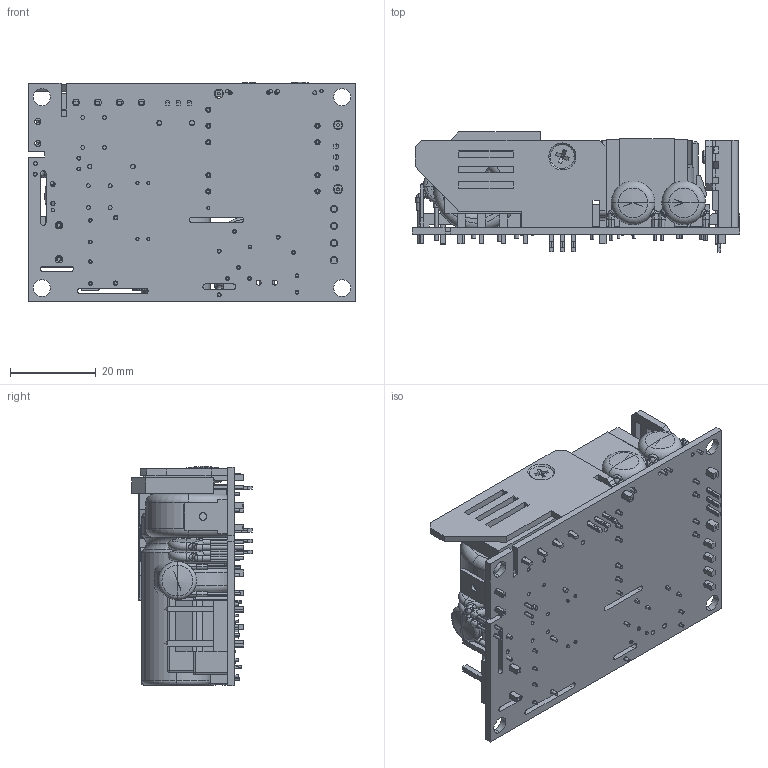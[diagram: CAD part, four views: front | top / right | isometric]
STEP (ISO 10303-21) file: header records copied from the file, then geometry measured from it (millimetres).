
FILE_DESCRIPTION (( 'STEP AP214' ), '1' );
FILE_NAME ('ECS60US12.STEP', '2011-06-01T17:39:45', ( 'ALL' ), ( 'XP ForeSight' ), 'SwSTEP 2.0', 'SolidWorks 2009', '' );
FILE_SCHEMA (( 'AUTOMOTIVE_DESIGN' ));
Length unit declared in the file: millimetre
Products named in the file (27): Capacitor Disc_0.400 D X .40 LS; CAP-ELE_5X11MM_HOZ; Nut_Keps_4-40_Star_01; TO220_3P_01; CON MLX  .156 3P; Fuse Mini Box; Conn_MLX_KK156_Hdr_04P; Capacitor Disc_0.300 D X .40 LS; Therm_.350 D X .250 LS; Faston .25 X .032; Xxmr_1050x1150x800_12p_mod; CAPACITOR FILM_.70x.30_.60LS; Pot_Top adj_Type1_01; Bridge Rectifier_GBU6K_Lead trimed; Bumper 10x10x4mm; Inductor Toroid_18.0mm OD_7mm Width; 10010914A0; Screw_FHP_M3.0x0.5_8mm (.315) LG; 10010743A0; ECS60US12; Capacitor Elec_10mm D_20mm; Inductor Toroid_8.0mm OD_3.5mm Width; 10011825A0; Capacitor Elec_16mm D_H1_40mm; Inductor Toroid_20.0mm OD_10mm Width; Capacitor Elec_8mm D_20mm; Capacitor Film_13x06mm_10 LS_12mm H
Assembly tree (36 placements, depth 2):
  ECS60US12
    Bumper 10x10x4mm  x2
    Capacitor Disc_0.300 D X .40 LS  x3
    Inductor Toroid_8.0mm OD_3.5mm Width
    TO220_3P_01  x2
    Bridge Rectifier_GBU6K_Lead trimed
    Capacitor Film_13x06mm_10 LS_12mm H
    Capacitor Elec_10mm D_20mm  x2
    CAP-ELE_5X11MM_HOZ  x2
    Inductor Toroid_20.0mm OD_10mm Width
    CON MLX  .156 3P
    10010914A0
    Capacitor Disc_0.400 D X .40 LS  x2
    Nut_Keps_4-40_Star_01  x2
    Pot_Top adj_Type1_01
    Screw_FHP_M3.0x0.5_8mm (.315) LG  x2
    Faston .25 X .032
    Fuse Mini Box  x2
    Therm_.350 D X .250 LS
    10010743A0
    Capacitor Elec_8mm D_20mm
    CAPACITOR FILM_.70x.30_.60LS
    Inductor Toroid_18.0mm OD_7mm Width
    10011825A0
    Conn_MLX_KK156_Hdr_04P
    Xxmr_1050x1150x800_12p_mod
    Capacitor Elec_16mm D_H1_40mm
Bounding box: 76.2 x 27.94 x 51.05 mm (x, y, z)
Volume: 44811.8 mm3; surface area: 33425.5 mm2
Topology: 36 solids, 46 shells, 1639 faces, 4063 edges, 2542 vertices
Faces by surface type: plane 808, cylinder 497, torus 122, cone 112, bspline 78, sphere 22
Entity records: 47260 total; most frequent: CARTESIAN_POINT 8717, DIRECTION 6596, ORIENTED_EDGE 6232, EDGE_CURVE 3116, AXIS2_PLACEMENT_3D 2376, VERTEX_POINT 1995, VECTOR 1844, LINE 1844
